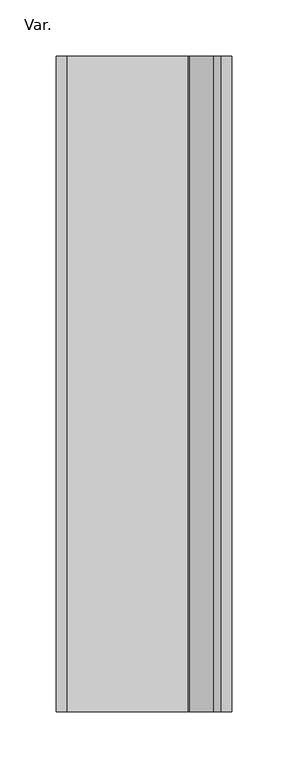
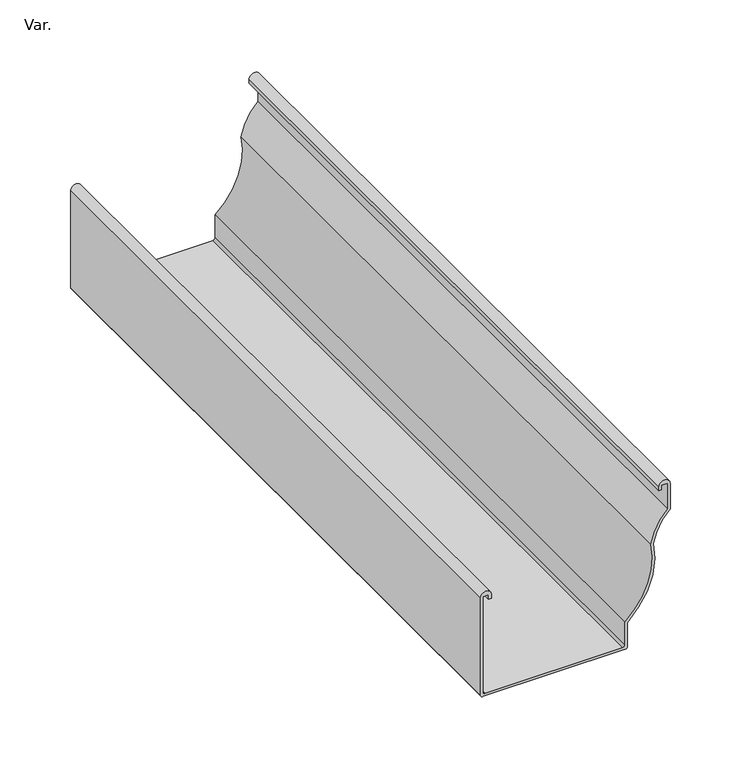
"""IFC4 building model written with IfcOpenShell, lengths in millimetres: pipe fitting geometry, PlastigamaWavin_Unionesdetubería_CanalesyBajantesZ_NoUsarCanal : Var.."""

from ifc_helpers import new_model, si_unit, point, frame, frame_2d, origin, place, context, project, spatial, polyline, circle_curve, trimmed, segment, composite_curve, outline, extrude, source, transform, mapped, element, save


def var_5ad48b10(model_context):
    return source(origin(), model_context, "Body", "SweptSolid", [
        extrude(outline(composite_curve([segment(polyline([(3.96, -75.5194141), (86.2, -75.5194141), (86.2, -70.8), (82.2, -70.8), (82.2, -68.38), (85.44, -68.38)]), True, "CONTINUOUS"), segment(trimmed(circle_curve(frame_2d((85.44, -72.94)), 4.56), [point((85.44, -68.38))], [point((85.44, -77.5))], False, "CARTESIAN"), True, "CONTINUOUS"), segment(polyline([(85.44, -77.5), (1.98, -77.5)]), True, "CONTINUOUS"), segment(trimmed(circle_curve(frame_2d((1.98, -75.52)), 1.98), [point((1.98, -77.5))], [point((0.0, -75.52))], False, "CARTESIAN"), True, "CONTINUOUS"), segment(polyline([(0.0, -75.52), (0.0, 40.52)]), True, "CONTINUOUS"), segment(trimmed(circle_curve(frame_2d((1.98, 40.52)), 1.98), [point((0.0, 40.52))], [point((1.98, 42.5))], False, "CARTESIAN"), True, "CONTINUOUS"), segment(polyline([(1.98, 42.5), (22.5176754, 42.5)]), True, "CONTINUOUS"), segment(trimmed(circle_curve(frame_2d((71.7727075, -0.3252896)), 65.2691628), [point((22.5176754, 42.5))], [point((83.3830495, 63.9029252))], False, "CARTESIAN"), True, "CONTINUOUS"), segment(trimmed(circle_curve(frame_2d((74.7303208, 109.7560782)), 46.6624191), [point((83.3830495, 63.9029252))], [point((108.4486656, 77.5))], True, "CARTESIAN"), True, "CONTINUOUS"), segment(polyline([(108.4486656, 77.5), (130.44, 77.5)]), True, "CONTINUOUS"), segment(trimmed(circle_curve(frame_2d((130.44, 72.94)), 4.56), [point((130.44, 77.5))], [point((130.44, 68.38))], False, "CARTESIAN"), True, "CONTINUOUS"), segment(polyline([(130.44, 68.38), (127.2, 68.38), (127.2, 70.4), (131.2, 70.4), (131.2, 75.5194141), (109.2842769, 75.5194141)]), True, "CONTINUOUS"), segment(trimmed(circle_curve(frame_2d((74.7303208, 109.7560782)), 48.6428315), [point((109.2842769, 75.5194141))], [point((83.3777963, 61.8880699))], False, "CARTESIAN"), True, "CONTINUOUS"), segment(trimmed(circle_curve(frame_2d((71.7727075, -0.3252896)), 63.2864928), [point((83.3777963, 61.8880699))], [point((23.4318086, 40.52))], True, "CARTESIAN"), True, "CONTINUOUS"), segment(polyline([(23.4318086, 40.52), (3.96, 40.52)]), True, "CONTINUOUS"), segment(trimmed(circle_curve(frame_2d((3.96, 38.54)), 1.98), [point((3.96, 40.52))], [point((1.98, 38.54))], True, "CARTESIAN"), True, "CONTINUOUS"), segment(polyline([(1.98, 38.54), (1.98, -73.5394141)]), True, "CONTINUOUS"), segment(trimmed(circle_curve(frame_2d((3.96, -73.5394141)), 1.98), [point((1.98, -73.5394141))], [point((3.96, -75.5194141))], True, "CARTESIAN"), True, "CONTINUOUS")], self_intersect=False)), frame((0.0, 0.0, 0.0), z_axis=(0.0, 1.0, 0.0), x_axis=(0.0, 0.0, 1.0)), (0.0, 0.0, 1.0), 580.0),
    ])


if __name__ == "__main__":
    model = new_model("IFC4")
    model_context = context("Model", 3, world=origin())
    ifc_project = project(units=[si_unit("LENGTHUNIT", "METRE", prefix="MILLI")], contexts=[model_context])
    site = spatial("IfcSite", under=ifc_project)
    building = spatial("IfcBuilding", under=site)
    placement = place(None, origin())
    var_shape = var_5ad48b10(model_context)
    element("IfcPipeFitting", 1, ObjectType="PlastigamaWavin_Unionesdetubería_CanalesyBajantesZ_NoUsarCanal : Var.", at=placement, inside=building, context=model_context, shape_type="MappedRepresentation", body=[
        mapped(var_shape, transform((0.0, 0.0, 0.0), x_axis=(1.0, 0.0, 0.0), y_axis=(0.0, 1.0, 0.0), z_axis=(0.0, 0.0, 1.0))),
    ])
    save(model, "model.ifc")
